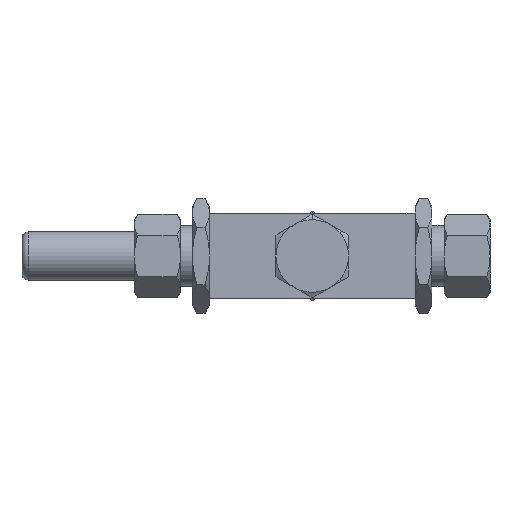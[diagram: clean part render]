
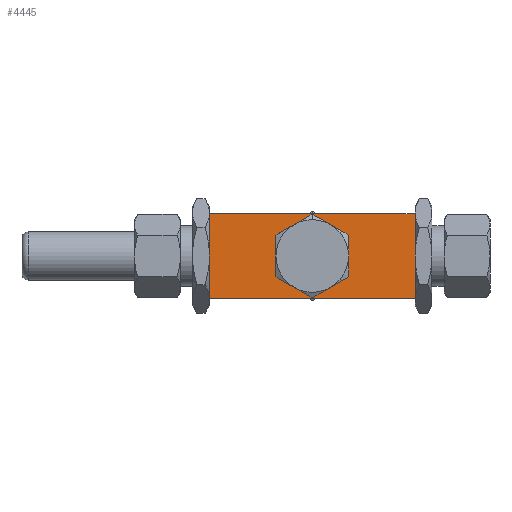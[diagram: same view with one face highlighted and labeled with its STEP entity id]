
A CAD part, front view. The second image highlights one B-rep face of the part: STEP entity #4445.
In plain terms, the highlighted planar face has unit normal (0, -1, 0).
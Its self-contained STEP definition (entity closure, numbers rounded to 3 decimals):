
#60 = CARTESIAN_POINT ( 'NONE',  ( -42.5, -32.5, 17.5 ) ) ;
#83 = VERTEX_POINT ( 'NONE', #2937 ) ;
#104 = EDGE_CURVE ( 'NONE', #2908, #3896, #3050, .T. ) ;
#206 = CARTESIAN_POINT ( 'NONE',  ( 0., -32.5, 0. ) ) ;
#239 = AXIS2_PLACEMENT_3D ( 'NONE', #2831, #4825, #2340 ) ;
#299 = ORIENTED_EDGE ( 'NONE', *, *, #486, .F. ) ;
#343 = ORIENTED_EDGE ( 'NONE', *, *, #5991, .T. ) ;
#349 = DIRECTION ( 'NONE',  ( 0., 0., -1. ) ) ;
#387 = CARTESIAN_POINT ( 'NONE',  ( -42.5, -32.5, -17.5 ) ) ;
#426 = DIRECTION ( 'NONE',  ( 1., 0., 0. ) ) ;
#486 = EDGE_CURVE ( 'NONE', #2684, #2776, #5094, .T. ) ;
#637 = DIRECTION ( 'NONE',  ( 0., -1., 0. ) ) ;
#643 = EDGE_CURVE ( 'NONE', #3020, #4909, #5368, .T. ) ;
#711 = CARTESIAN_POINT ( 'NONE',  ( 0., -32.5, 0. ) ) ;
#799 = EDGE_CURVE ( 'NONE', #5510, #2146, #4881, .T. ) ;
#830 = CARTESIAN_POINT ( 'NONE',  ( 0., -32.5, 0. ) ) ;
#1137 = CARTESIAN_POINT ( 'NONE',  ( 0., -32.5, 0. ) ) ;
#1405 = CIRCLE ( 'NONE', #4341, 15. ) ;
#1475 = AXIS2_PLACEMENT_3D ( 'NONE', #206, #1718, #5853 ) ;
#1539 = CARTESIAN_POINT ( 'NONE',  ( 15., -32.5, 0. ) ) ;
#1660 = EDGE_CURVE ( 'NONE', #3896, #5875, #5051, .T. ) ;
#1718 = DIRECTION ( 'NONE',  ( 0., -1., 0. ) ) ;
#1753 = CARTESIAN_POINT ( 'NONE',  ( 42.5, -32.5, 17.5 ) ) ;
#1761 = LINE ( 'NONE', #5734, #4285 ) ;
#1809 = FACE_BOUND ( 'NONE', #5273, .T. ) ;
#1850 = EDGE_LOOP ( 'NONE', ( #2024, #2042, #299, #343 ) ) ;
#1863 = CARTESIAN_POINT ( 'NONE',  ( 0., -32.5, 0. ) ) ;
#2024 = ORIENTED_EDGE ( 'NONE', *, *, #799, .T. ) ;
#2042 = ORIENTED_EDGE ( 'NONE', *, *, #2983, .F. ) ;
#2078 = EDGE_CURVE ( 'NONE', #4909, #83, #5912, .T. ) ;
#2093 = DIRECTION ( 'NONE',  ( 0., -1., 0. ) ) ;
#2096 = VERTEX_POINT ( 'NONE', #3660 ) ;
#2146 = VERTEX_POINT ( 'NONE', #3784 ) ;
#2224 = ORIENTED_EDGE ( 'NONE', *, *, #2078, .F. ) ;
#2332 = DIRECTION ( 'NONE',  ( 0., 0., -1. ) ) ;
#2340 = DIRECTION ( 'NONE',  ( 0., 0., 1. ) ) ;
#2404 = CARTESIAN_POINT ( 'NONE',  ( 0., -32.5, 0. ) ) ;
#2428 = AXIS2_PLACEMENT_3D ( 'NONE', #711, #3122, #4707 ) ;
#2451 = DIRECTION ( 'NONE',  ( 0., -1., 0. ) ) ;
#2684 = VERTEX_POINT ( 'NONE', #60 ) ;
#2776 = VERTEX_POINT ( 'NONE', #1753 ) ;
#2831 = CARTESIAN_POINT ( 'NONE',  ( -42.5, -32.5, 17.5 ) ) ;
#2843 = AXIS2_PLACEMENT_3D ( 'NONE', #4240, #637, #5681 ) ;
#2867 = DIRECTION ( 'NONE',  ( 0., 0., -1. ) ) ;
#2908 = VERTEX_POINT ( 'NONE', #4486 ) ;
#2937 = CARTESIAN_POINT ( 'NONE',  ( -7.5, -32.5, 12.99 ) ) ;
#2983 = EDGE_CURVE ( 'NONE', #2776, #2146, #3932, .T. ) ;
#2992 = ORIENTED_EDGE ( 'NONE', *, *, #3372, .F. ) ;
#3020 = VERTEX_POINT ( 'NONE', #1539 ) ;
#3050 = CIRCLE ( 'NONE', #3248, 15. ) ;
#3055 = ORIENTED_EDGE ( 'NONE', *, *, #1660, .F. ) ;
#3099 = AXIS2_PLACEMENT_3D ( 'NONE', #2404, #2093, #5508 ) ;
#3122 = DIRECTION ( 'NONE',  ( 0., -1., 0. ) ) ;
#3248 = AXIS2_PLACEMENT_3D ( 'NONE', #830, #2451, #2867 ) ;
#3280 = EDGE_CURVE ( 'NONE', #5875, #3020, #1405, .T. ) ;
#3327 = PLANE ( 'NONE',  #239 ) ;
#3372 = EDGE_CURVE ( 'NONE', #83, #2096, #4655, .T. ) ;
#3481 = VECTOR ( 'NONE', #426, 1000. ) ;
#3534 = CARTESIAN_POINT ( 'NONE',  ( -42.5, -32.5, 17.5 ) ) ;
#3660 = CARTESIAN_POINT ( 'NONE',  ( -15., -32.5, 0. ) ) ;
#3784 = CARTESIAN_POINT ( 'NONE',  ( 42.5, -32.5, -17.5 ) ) ;
#3862 = CARTESIAN_POINT ( 'NONE',  ( 42.5, -32.5, 17.5 ) ) ;
#3896 = VERTEX_POINT ( 'NONE', #6487 ) ;
#3924 = ORIENTED_EDGE ( 'NONE', *, *, #3280, .F. ) ;
#3932 = LINE ( 'NONE', #3862, #5283 ) ;
#4000 = ORIENTED_EDGE ( 'NONE', *, *, #643, .F. ) ;
#4240 = CARTESIAN_POINT ( 'NONE',  ( 0., -32.5, 0. ) ) ;
#4285 = VECTOR ( 'NONE', #6232, 1000. ) ;
#4295 = VECTOR ( 'NONE', #4354, 1000. ) ;
#4341 = AXIS2_PLACEMENT_3D ( 'NONE', #1863, #4466, #2332 ) ;
#4354 = DIRECTION ( 'NONE',  ( 1., 0., 0. ) ) ;
#4445 = ADVANCED_FACE ( 'NONE', ( #6334, #1809 ), #3327, .F. ) ;
#4455 = ORIENTED_EDGE ( 'NONE', *, *, #104, .F. ) ;
#4466 = DIRECTION ( 'NONE',  ( 0., -1., 0. ) ) ;
#4486 = CARTESIAN_POINT ( 'NONE',  ( -7.5, -32.5, -12.99 ) ) ;
#4655 = CIRCLE ( 'NONE', #3099, 15. ) ;
#4707 = DIRECTION ( 'NONE',  ( 0., 0., -1. ) ) ;
#4825 = DIRECTION ( 'NONE',  ( 0., 1., 0. ) ) ;
#4881 = LINE ( 'NONE', #387, #4295 ) ;
#4909 = VERTEX_POINT ( 'NONE', #5479 ) ;
#5051 = CIRCLE ( 'NONE', #1475, 15. ) ;
#5094 = LINE ( 'NONE', #3534, #3481 ) ;
#5154 = CIRCLE ( 'NONE', #5915, 15. ) ;
#5273 = EDGE_LOOP ( 'NONE', ( #2224, #4000, #3924, #3055, #4455, #5884, #2992 ) ) ;
#5283 = VECTOR ( 'NONE', #349, 1000. ) ;
#5368 = CIRCLE ( 'NONE', #2428, 15. ) ;
#5479 = CARTESIAN_POINT ( 'NONE',  ( 7.5, -32.5, 12.99 ) ) ;
#5508 = DIRECTION ( 'NONE',  ( 0., 0., -1. ) ) ;
#5510 = VERTEX_POINT ( 'NONE', #6380 ) ;
#5514 = CARTESIAN_POINT ( 'NONE',  ( 7.5, -32.5, -12.99 ) ) ;
#5635 = EDGE_CURVE ( 'NONE', #2096, #2908, #5154, .T. ) ;
#5681 = DIRECTION ( 'NONE',  ( 0., 0., -1. ) ) ;
#5734 = CARTESIAN_POINT ( 'NONE',  ( -42.5, -32.5, 17.5 ) ) ;
#5853 = DIRECTION ( 'NONE',  ( 0., 0., -1. ) ) ;
#5875 = VERTEX_POINT ( 'NONE', #5514 ) ;
#5884 = ORIENTED_EDGE ( 'NONE', *, *, #5635, .F. ) ;
#5912 = CIRCLE ( 'NONE', #2843, 15. ) ;
#5915 = AXIS2_PLACEMENT_3D ( 'NONE', #1137, #6174, #6297 ) ;
#5991 = EDGE_CURVE ( 'NONE', #2684, #5510, #1761, .T. ) ;
#6174 = DIRECTION ( 'NONE',  ( 0., -1., 0. ) ) ;
#6232 = DIRECTION ( 'NONE',  ( 0., 0., -1. ) ) ;
#6297 = DIRECTION ( 'NONE',  ( 0., 0., -1. ) ) ;
#6334 = FACE_OUTER_BOUND ( 'NONE', #1850, .T. ) ;
#6380 = CARTESIAN_POINT ( 'NONE',  ( -42.5, -32.5, -17.5 ) ) ;
#6487 = CARTESIAN_POINT ( 'NONE',  ( 0., -32.5, -15. ) ) ;
